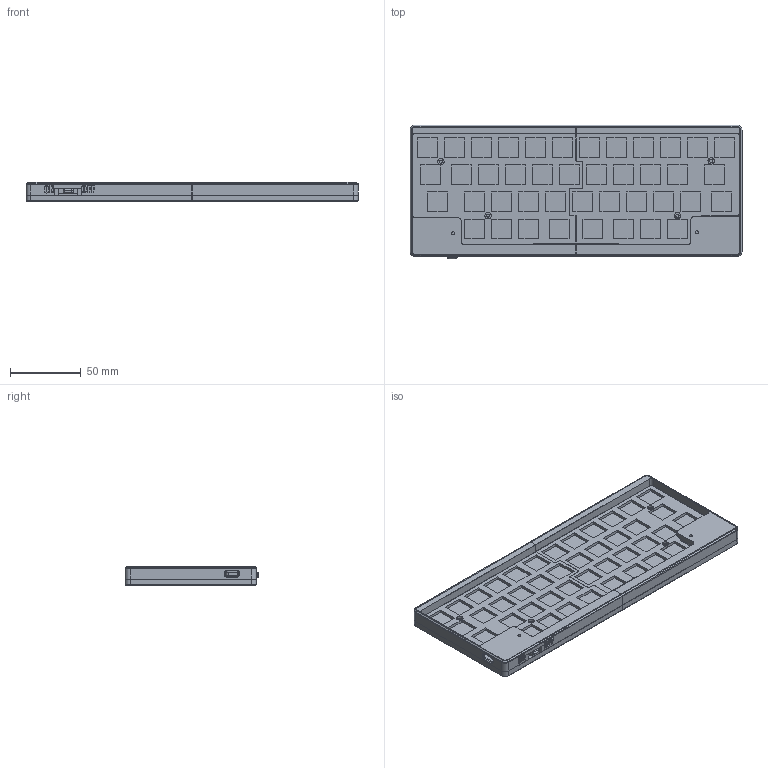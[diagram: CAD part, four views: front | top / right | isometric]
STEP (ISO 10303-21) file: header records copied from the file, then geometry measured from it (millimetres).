
FILE_DESCRIPTION(/* description */ (''),/* implementation_level */ '2;1');
FILE_NAME(/* name */ 'Kan42 Keyboard Case.step',/* time_stamp */ '2025-10-18T22:01:49+09:00',/* author */ (''),/* organization */ (''),/* preprocessor_version */ 'ST-DEVELOPER v20.1',/* originating_system */ 'Autodesk Translation Framework v14.17.0.0',/* authorisation */ '');
FILE_SCHEMA (('AUTOMOTIVE_DESIGN { 1 0 10303 214 3 1 1 }'));
Length unit declared in the file: millimetre
Products named in the file (9): Kan42 Keyboard Case; Hardware; PCB (1); Printed Parts; Switch Plate (L); Switch Plate (R); Case Top; Case Bottom; V0 printable
Assembly tree (8 placements, depth 3):
  Kan42 Keyboard Case
    Hardware
      PCB (1)
    Printed Parts
      Switch Plate (L)
      Switch Plate (R)
      Case Top
      Case Bottom
      V0 printable
Bounding box: 233.95 x 94.3 x 13.5 mm (x, y, z)
Volume: 207331.8 mm3; surface area: 206041.1 mm2
Topology: 21 solids, 21 shells, 1215 faces, 3061 edges, 1985 vertices
Faces by surface type: plane 712, cylinder 305, bspline 165, cone 24, sphere 8, torus 1
Full cylindrical faces by diameter (mm): 1.8 x42, 2.1 x10, 2.2 x9, 2.5 x26, 2.8 x10, 4 x10, 4.2 x2, 4.4 x4, 4.5 x4, 4.6 x18, 5.8 x6
Entity records: 41547 total; most frequent: CARTESIAN_POINT 12194, ORIENTED_EDGE 6120, DIRECTION 5574, EDGE_CURVE 3060, LINE 2112, VECTOR 2112, VERTEX_POINT 1985, AXIS2_PLACEMENT_3D 1731
